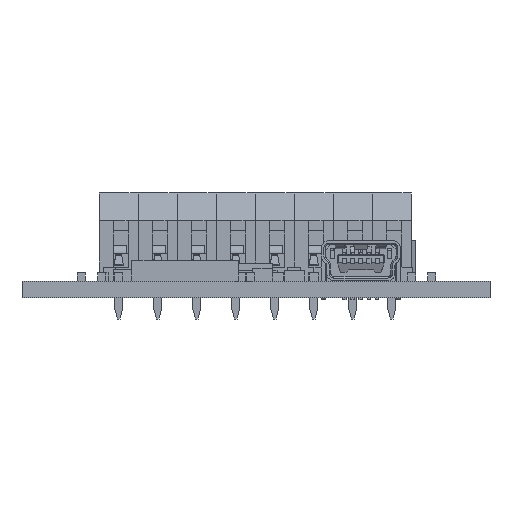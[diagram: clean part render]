
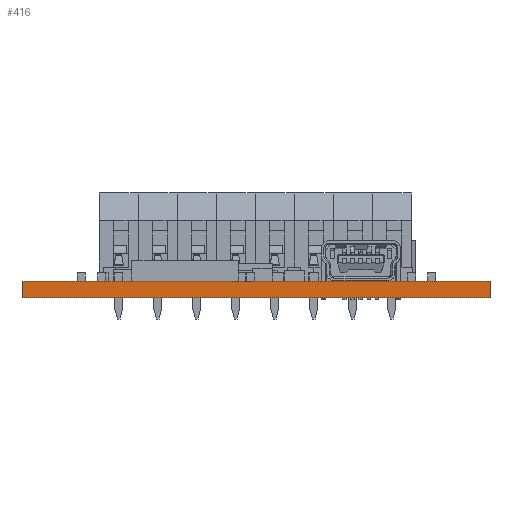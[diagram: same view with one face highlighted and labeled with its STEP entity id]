
A CAD part, front view. The second image highlights one B-rep face of the part: STEP entity #416.
In plain terms, the highlighted planar face has unit normal (0, -1, 0).
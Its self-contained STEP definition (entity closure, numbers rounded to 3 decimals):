
#247 = PLANE('',#248);
#248 = AXIS2_PLACEMENT_3D('',#249,#250,#251);
#249 = CARTESIAN_POINT('',(25.4,25.4,0.));
#250 = DIRECTION('',(-1.,0.,0.));
#251 = DIRECTION('',(0.,1.,0.));
#275 = PLANE('',#276);
#276 = AXIS2_PLACEMENT_3D('',#277,#278,#279);
#277 = CARTESIAN_POINT('',(25.4,68.58,1.6));
#278 = DIRECTION('',(0.,0.,1.));
#279 = DIRECTION('',(1.,0.,0.));
#303 = PLANE('',#304);
#304 = AXIS2_PLACEMENT_3D('',#305,#306,#307);
#305 = CARTESIAN_POINT('',(71.12,68.58,0.));
#306 = DIRECTION('',(1.,0.,0.));
#307 = DIRECTION('',(0.,-1.,0.));
#329 = PLANE('',#330);
#330 = AXIS2_PLACEMENT_3D('',#331,#332,#333);
#331 = CARTESIAN_POINT('',(25.4,68.58,0.));
#332 = DIRECTION('',(0.,0.,1.));
#333 = DIRECTION('',(1.,0.,0.));
#346 = VERTEX_POINT('',#347);
#347 = CARTESIAN_POINT('',(71.12,25.4,1.6));
#368 = EDGE_CURVE('',#369,#346,#371,.T.);
#369 = VERTEX_POINT('',#370);
#370 = CARTESIAN_POINT('',(71.12,25.4,0.));
#371 = SURFACE_CURVE('',#372,(#376,#383),.PCURVE_S1.);
#372 = LINE('',#373,#374);
#373 = CARTESIAN_POINT('',(71.12,25.4,0.));
#374 = VECTOR('',#375,1.);
#375 = DIRECTION('',(0.,0.,1.));
#376 = PCURVE('',#303,#377);
#377 = DEFINITIONAL_REPRESENTATION('',(#378),#382);
#378 = LINE('',#379,#380);
#379 = CARTESIAN_POINT('',(43.18,0.));
#380 = VECTOR('',#381,1.);
#381 = DIRECTION('',(0.,-1.));
#382 = ( GEOMETRIC_REPRESENTATION_CONTEXT(2) 
PARAMETRIC_REPRESENTATION_CONTEXT() REPRESENTATION_CONTEXT('2D SPACE',''
  ) );
#383 = PCURVE('',#384,#389);
#384 = PLANE('',#385);
#385 = AXIS2_PLACEMENT_3D('',#386,#387,#388);
#386 = CARTESIAN_POINT('',(71.12,25.4,0.));
#387 = DIRECTION('',(0.,-1.,0.));
#388 = DIRECTION('',(-1.,0.,0.));
#389 = DEFINITIONAL_REPRESENTATION('',(#390),#394);
#390 = LINE('',#391,#392);
#391 = CARTESIAN_POINT('',(0.,0.));
#392 = VECTOR('',#393,1.);
#393 = DIRECTION('',(0.,-1.));
#394 = ( GEOMETRIC_REPRESENTATION_CONTEXT(2) 
PARAMETRIC_REPRESENTATION_CONTEXT() REPRESENTATION_CONTEXT('2D SPACE',''
  ) );
#416 = ADVANCED_FACE('',(#417),#384,.T.);
#417 = FACE_BOUND('',#418,.T.);
#418 = EDGE_LOOP('',(#419,#420,#443,#466));
#419 = ORIENTED_EDGE('',*,*,#368,.T.);
#420 = ORIENTED_EDGE('',*,*,#421,.T.);
#421 = EDGE_CURVE('',#346,#422,#424,.T.);
#422 = VERTEX_POINT('',#423);
#423 = CARTESIAN_POINT('',(25.4,25.4,1.6));
#424 = SURFACE_CURVE('',#425,(#429,#436),.PCURVE_S1.);
#425 = LINE('',#426,#427);
#426 = CARTESIAN_POINT('',(71.12,25.4,1.6));
#427 = VECTOR('',#428,1.);
#428 = DIRECTION('',(-1.,0.,0.));
#429 = PCURVE('',#384,#430);
#430 = DEFINITIONAL_REPRESENTATION('',(#431),#435);
#431 = LINE('',#432,#433);
#432 = CARTESIAN_POINT('',(0.,-1.6));
#433 = VECTOR('',#434,1.);
#434 = DIRECTION('',(1.,0.));
#435 = ( GEOMETRIC_REPRESENTATION_CONTEXT(2) 
PARAMETRIC_REPRESENTATION_CONTEXT() REPRESENTATION_CONTEXT('2D SPACE',''
  ) );
#436 = PCURVE('',#275,#437);
#437 = DEFINITIONAL_REPRESENTATION('',(#438),#442);
#438 = LINE('',#439,#440);
#439 = CARTESIAN_POINT('',(45.72,-43.18));
#440 = VECTOR('',#441,1.);
#441 = DIRECTION('',(-1.,0.));
#442 = ( GEOMETRIC_REPRESENTATION_CONTEXT(2) 
PARAMETRIC_REPRESENTATION_CONTEXT() REPRESENTATION_CONTEXT('2D SPACE',''
  ) );
#443 = ORIENTED_EDGE('',*,*,#444,.F.);
#444 = EDGE_CURVE('',#445,#422,#447,.T.);
#445 = VERTEX_POINT('',#446);
#446 = CARTESIAN_POINT('',(25.4,25.4,0.));
#447 = SURFACE_CURVE('',#448,(#452,#459),.PCURVE_S1.);
#448 = LINE('',#449,#450);
#449 = CARTESIAN_POINT('',(25.4,25.4,0.));
#450 = VECTOR('',#451,1.);
#451 = DIRECTION('',(0.,0.,1.));
#452 = PCURVE('',#384,#453);
#453 = DEFINITIONAL_REPRESENTATION('',(#454),#458);
#454 = LINE('',#455,#456);
#455 = CARTESIAN_POINT('',(45.72,0.));
#456 = VECTOR('',#457,1.);
#457 = DIRECTION('',(0.,-1.));
#458 = ( GEOMETRIC_REPRESENTATION_CONTEXT(2) 
PARAMETRIC_REPRESENTATION_CONTEXT() REPRESENTATION_CONTEXT('2D SPACE',''
  ) );
#459 = PCURVE('',#247,#460);
#460 = DEFINITIONAL_REPRESENTATION('',(#461),#465);
#461 = LINE('',#462,#463);
#462 = CARTESIAN_POINT('',(0.,0.));
#463 = VECTOR('',#464,1.);
#464 = DIRECTION('',(0.,-1.));
#465 = ( GEOMETRIC_REPRESENTATION_CONTEXT(2) 
PARAMETRIC_REPRESENTATION_CONTEXT() REPRESENTATION_CONTEXT('2D SPACE',''
  ) );
#466 = ORIENTED_EDGE('',*,*,#467,.F.);
#467 = EDGE_CURVE('',#369,#445,#468,.T.);
#468 = SURFACE_CURVE('',#469,(#473,#480),.PCURVE_S1.);
#469 = LINE('',#470,#471);
#470 = CARTESIAN_POINT('',(71.12,25.4,0.));
#471 = VECTOR('',#472,1.);
#472 = DIRECTION('',(-1.,0.,0.));
#473 = PCURVE('',#384,#474);
#474 = DEFINITIONAL_REPRESENTATION('',(#475),#479);
#475 = LINE('',#476,#477);
#476 = CARTESIAN_POINT('',(0.,0.));
#477 = VECTOR('',#478,1.);
#478 = DIRECTION('',(1.,0.));
#479 = ( GEOMETRIC_REPRESENTATION_CONTEXT(2) 
PARAMETRIC_REPRESENTATION_CONTEXT() REPRESENTATION_CONTEXT('2D SPACE',''
  ) );
#480 = PCURVE('',#329,#481);
#481 = DEFINITIONAL_REPRESENTATION('',(#482),#486);
#482 = LINE('',#483,#484);
#483 = CARTESIAN_POINT('',(45.72,-43.18));
#484 = VECTOR('',#485,1.);
#485 = DIRECTION('',(-1.,0.));
#486 = ( GEOMETRIC_REPRESENTATION_CONTEXT(2) 
PARAMETRIC_REPRESENTATION_CONTEXT() REPRESENTATION_CONTEXT('2D SPACE',''
  ) );
